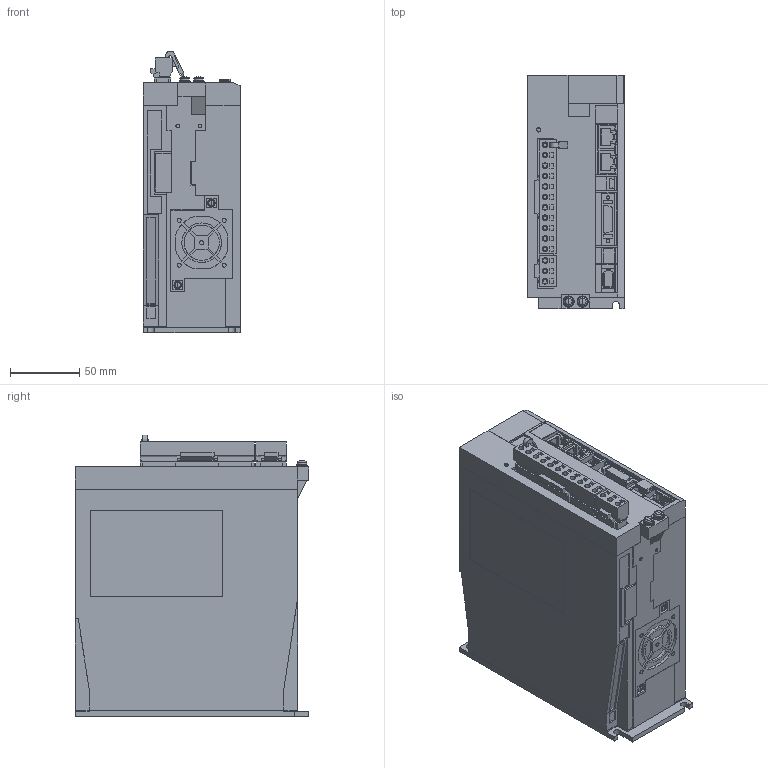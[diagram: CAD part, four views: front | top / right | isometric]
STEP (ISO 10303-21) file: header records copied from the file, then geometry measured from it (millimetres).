
FILE_DESCRIPTION((''),'2;1');
FILE_NAME('SGDXS-7R6A40A_ASM_ASM','2022-02-25T',('liubing_shen'),('Yaskawa Electric (Shenyang) Co.,Ltd'),'PRO/ENGINEER BY PARAMETRIC TECHNOLOGY CORPORATION, 2017170','PRO/ENGINEER BY PARAMETRIC TECHNOLOGY CORPORATION, 2017170','');
FILE_SCHEMA(('AUTOMOTIVE_DESIGN { 1 0 10303 214 1 1 1 1 }'));
Products named in the file (10): SGDXS_7R6A40A_BASE; SGDXS_7R6A40A_CONNECTOR_2_1_2; SGDXS_7R6A40A_CONNECTOR_1_1_4; SGDXS_7R6A40A_PIN_1_2; SGDXS_7R6A40A_CONNECTOR_3_1_1; SGDXS_7R6A40A_COVER2_1_AF0_2; SGDXS_7R6A40A_COVER3_1_1; SGDXS_7R6A40A_COVER_1_2; SGDXS-7R6A40A_ASM_9_ASM; SGDXS-7R6A40A_ASM_ASM
Assembly tree (9 placements, depth 3):
  SGDXS-7R6A40A_ASM_ASM
    SGDXS-7R6A40A_ASM_9_ASM
      SGDXS_7R6A40A_BASE
      SGDXS_7R6A40A_CONNECTOR_2_1_2
      SGDXS_7R6A40A_CONNECTOR_1_1_4
      SGDXS_7R6A40A_PIN_1_2
      SGDXS_7R6A40A_CONNECTOR_3_1_1
      SGDXS_7R6A40A_COVER2_1_AF0_2
      SGDXS_7R6A40A_COVER3_1_1
      SGDXS_7R6A40A_COVER_1_2
Bounding box: 70.5 x 168 x 202.93 mm (x, y, z)
Volume: 2000465.3 mm3; surface area: 144003.2 mm2
Topology: 8 solids, 8 shells, 1830 faces, 4920 edges, 3243 vertices
Faces by surface type: plane 1664, cylinder 140, cone 10, torus 8, sphere 8
Entity records: 71283 total; most frequent: CARTESIAN_POINT 10039, ORIENTED_EDGE 9824, DIRECTION 8989, EDGE_CURVE 4912, VECTOR 4549, LINE 4549, VERTEX_POINT 3243, AXIS2_PLACEMENT_3D 2220
